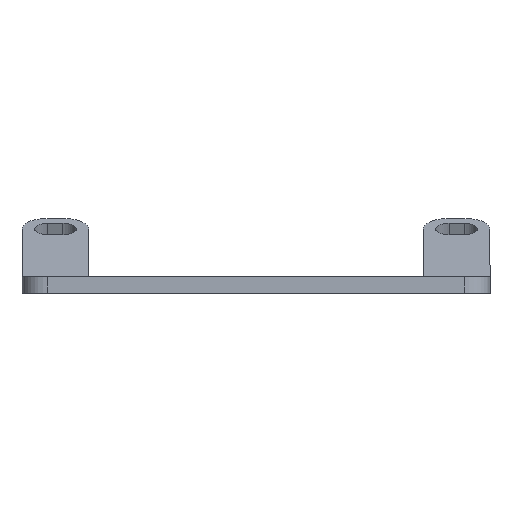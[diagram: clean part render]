
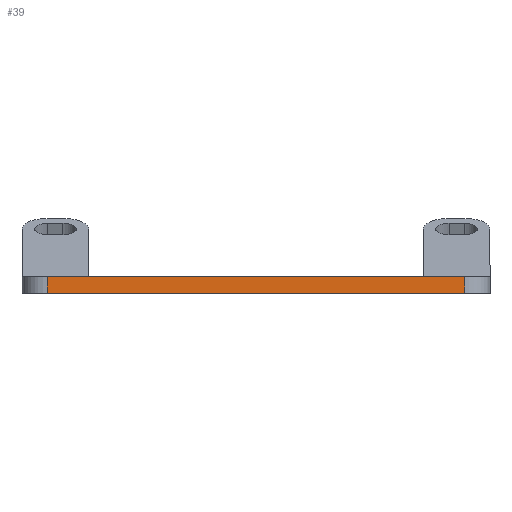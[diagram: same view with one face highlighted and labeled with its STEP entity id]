
A CAD part, top view. The second image highlights one B-rep face of the part: STEP entity #39.
In plain terms, the highlighted planar face has unit normal (0, 0, 1).
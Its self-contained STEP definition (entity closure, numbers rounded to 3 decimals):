
#39 = ADVANCED_FACE ( 'NONE', ( #176 ), #760, .T. ) ;
#65 = DIRECTION ( 'NONE',  ( 1., 0., 0. ) ) ;
#116 = ORIENTED_EDGE ( 'NONE', *, *, #545, .F. ) ;
#135 = CARTESIAN_POINT ( 'NONE',  ( -25., -2., 15. ) ) ;
#157 = DIRECTION ( 'NONE',  ( 1., 0., 0. ) ) ;
#163 = LINE ( 'NONE', #601, #1876 ) ;
#174 = DIRECTION ( 'NONE',  ( 0., 1., 0. ) ) ;
#176 = FACE_OUTER_BOUND ( 'NONE', #1334, .T. ) ;
#255 = CARTESIAN_POINT ( 'NONE',  ( 25., 0., 15. ) ) ;
#422 = DIRECTION ( 'NONE',  ( 1., 0., 0. ) ) ;
#484 = CARTESIAN_POINT ( 'NONE',  ( 25., -2., 15. ) ) ;
#545 = EDGE_CURVE ( 'NONE', #1812, #814, #640, .T. ) ;
#601 = CARTESIAN_POINT ( 'NONE',  ( -28., -2., 15. ) ) ;
#605 = LINE ( 'NONE', #135, #609 ) ;
#609 = VECTOR ( 'NONE', #1307, 1000. ) ;
#640 = LINE ( 'NONE', #1377, #1906 ) ;
#680 = ORIENTED_EDGE ( 'NONE', *, *, #1322, .T. ) ;
#760 = PLANE ( 'NONE',  #1402 ) ;
#814 = VERTEX_POINT ( 'NONE', #255 ) ;
#1040 = EDGE_CURVE ( 'NONE', #1381, #814, #1343, .T. ) ;
#1072 = CARTESIAN_POINT ( 'NONE',  ( 25., -2., 15. ) ) ;
#1305 = VECTOR ( 'NONE', #174, 1000. ) ;
#1307 = DIRECTION ( 'NONE',  ( 0., -1., 0. ) ) ;
#1322 = EDGE_CURVE ( 'NONE', #1812, #1464, #605, .T. ) ;
#1334 = EDGE_LOOP ( 'NONE', ( #116, #680, #1734, #1783 ) ) ;
#1343 = LINE ( 'NONE', #1072, #1305 ) ;
#1377 = CARTESIAN_POINT ( 'NONE',  ( -28., 0., 15. ) ) ;
#1381 = VERTEX_POINT ( 'NONE', #484 ) ;
#1402 = AXIS2_PLACEMENT_3D ( 'NONE', #1910, #1451, #157 ) ;
#1451 = DIRECTION ( 'NONE',  ( 0., 0., 1. ) ) ;
#1464 = VERTEX_POINT ( 'NONE', #1511 ) ;
#1511 = CARTESIAN_POINT ( 'NONE',  ( -25., -2., 15. ) ) ;
#1734 = ORIENTED_EDGE ( 'NONE', *, *, #1853, .T. ) ;
#1783 = ORIENTED_EDGE ( 'NONE', *, *, #1040, .T. ) ;
#1812 = VERTEX_POINT ( 'NONE', #1915 ) ;
#1853 = EDGE_CURVE ( 'NONE', #1464, #1381, #163, .T. ) ;
#1876 = VECTOR ( 'NONE', #422, 1000. ) ;
#1906 = VECTOR ( 'NONE', #65, 1000. ) ;
#1910 = CARTESIAN_POINT ( 'NONE',  ( -28., -2., 15. ) ) ;
#1915 = CARTESIAN_POINT ( 'NONE',  ( -25., 0., 15. ) ) ;
